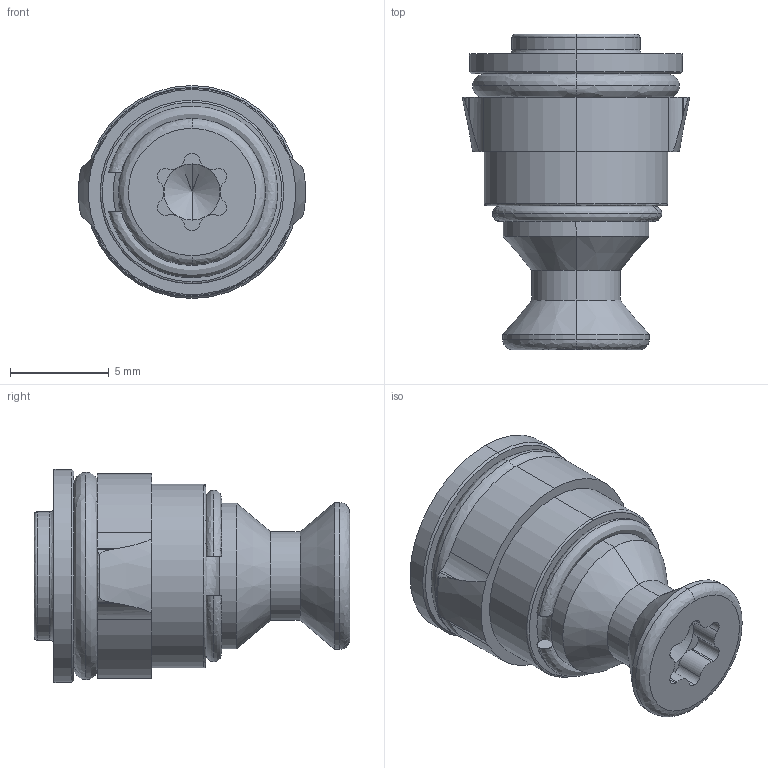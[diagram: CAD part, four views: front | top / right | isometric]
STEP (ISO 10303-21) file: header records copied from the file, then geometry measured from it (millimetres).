
FILE_DESCRIPTION (( 'STEP AP203' ), '1' );
FILE_NAME ('QS022-IAS-M6.STEP', '2017-06-07T09:04:25', ( '' ), ( '' ), 'SwSTEP 2.0', 'SolidWorks 2017', '' );
FILE_SCHEMA (( 'CONFIG_CONTROL_DESIGN' ));
Length unit declared in the file: millimetre
Products named in the file (1): QS022-IAS-M6
Bounding box: 11.51 x 16 x 10.8 mm (x, y, z)
Volume: 640.2 mm3; surface area: 1311.9 mm2
Topology: 6 solids, 6 shells, 165 faces, 441 edges, 256 vertices
Faces by surface type: cylinder 71, cone 49, bspline 26, plane 19
Entity records: 5635 total; most frequent: CARTESIAN_POINT 1784, ORIENTED_EDGE 808, DIRECTION 792, EDGE_CURVE 404, AXIS2_PLACEMENT_3D 340, VERTEX_POINT 256, CIRCLE 200, EDGE_LOOP 174
